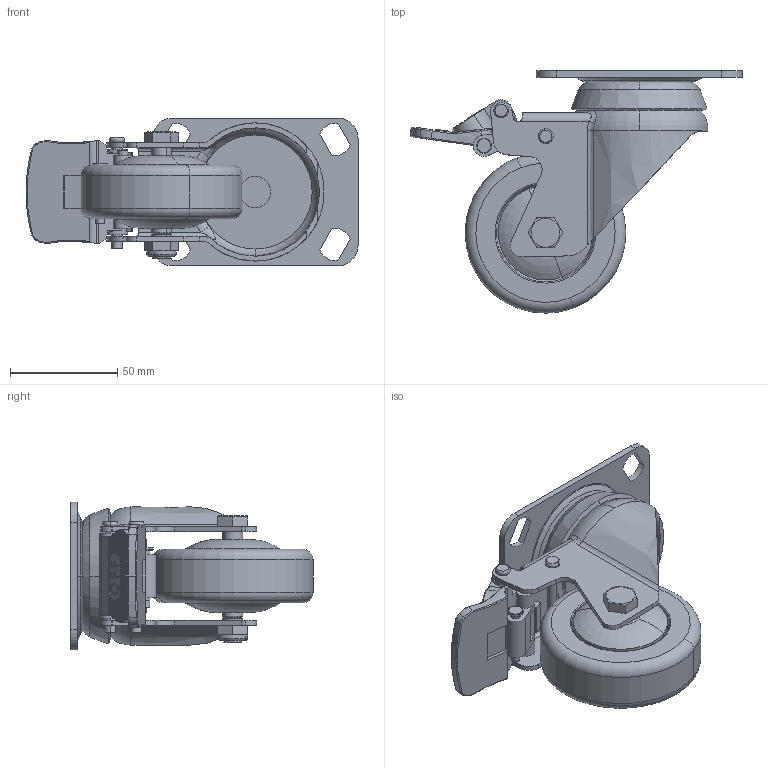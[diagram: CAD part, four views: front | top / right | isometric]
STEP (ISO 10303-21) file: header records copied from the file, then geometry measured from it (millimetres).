
FILE_DESCRIPTION (( 'STEP AP203' ), '1' );
FILE_NAME ('4110603004062-7.STEP', '2025-01-14T08:09:43', ( '' ), ( '' ), 'SwSTEP 2.0', 'SolidWorks 2019', '' );
FILE_SCHEMA (( 'CONFIG_CONTROL_DESIGN' ));
Length unit declared in the file: millimetre
Products named in the file (16): 4201043401-4''''5''''儀器架用煞車鉚釘-壓直花 4x34L; 210617040023 祸竟蛮焚今狾OFF(New琜ノ) 20180129; 242020954001 4''''.5''''儀器.高級活動用車心 20240124A8_170540; 3吋PPR輪-展; 4201044901-3''''4''''5''''儀器輪用煞車空心鉚釘(4.8x49.5L) 20190607; 245020900003 尼龍螺帽  3 8''''(對邊14x7L); 210617040006 儀器雙煞踏板組; 210617040022 祸竟蛮焚今狾ON(New琜ノ) 20180129; 12111120300014-四角底板斜孔; 211115030005-高級活動上珠碗-展示用; 210603030039 儀器雙煞架-鉚合; 4201042601 4''''.5''''儀器架剎車彈片用鉚釘20190430; 4110603004062-7; 4201141902 高級架用底板鉚釘 20190403; 210603030047 儀器煞車架-組立踏板; 210614030020 儀器活煞腳-展示用
Assembly tree (16 placements, depth 4):
  4110603004062-7
    242020954001 4''''.5''''儀器.高級活動用車心 20240124A8_170540
    245020900003 尼龍螺帽  3 8''''(對邊14x7L)
    3吋PPR輪-展
    210603030047 儀器煞車架-組立踏板
      210603030039 儀器雙煞架-鉚合
        4201141902 高級架用底板鉚釘 20190403
        211115030005-高級活動上珠碗-展示用
        210614030020 儀器活煞腳-展示用
      210617040006 儀器雙煞踏板組
        210617040022 祸竟蛮焚今狾ON(New琜ノ) 20180129
        210617040023 祸竟蛮焚今狾OFF(New琜ノ) 20180129
      4201042601 4''''.5''''儀器架剎車彈片用鉚釘20190430
      4201043401-4''''5''''儀器架用煞車鉚釘-壓直花 4x34L
      4201044901-3''''4''''5''''儀器輪用煞車空心鉚釘(4.8x49.5L) 20190607  x2
    12111120300014-四角底板斜孔
Bounding box: 154.93 x 113.04 x 69 mm (x, y, z)
Volume: 214761.5 mm3; surface area: 92300.4 mm2
Topology: 13 solids, 13 shells, 640 faces, 1588 edges, 1014 vertices
Faces by surface type: plane 295, cylinder 181, torus 93, bspline 39, cone 26, sphere 6
Entity records: 23014 total; most frequent: CARTESIAN_POINT 6075, DIRECTION 3267, ORIENTED_EDGE 3136, EDGE_CURVE 1568, AXIS2_PLACEMENT_3D 1237, VERTEX_POINT 1002, LINE 793, VECTOR 793
